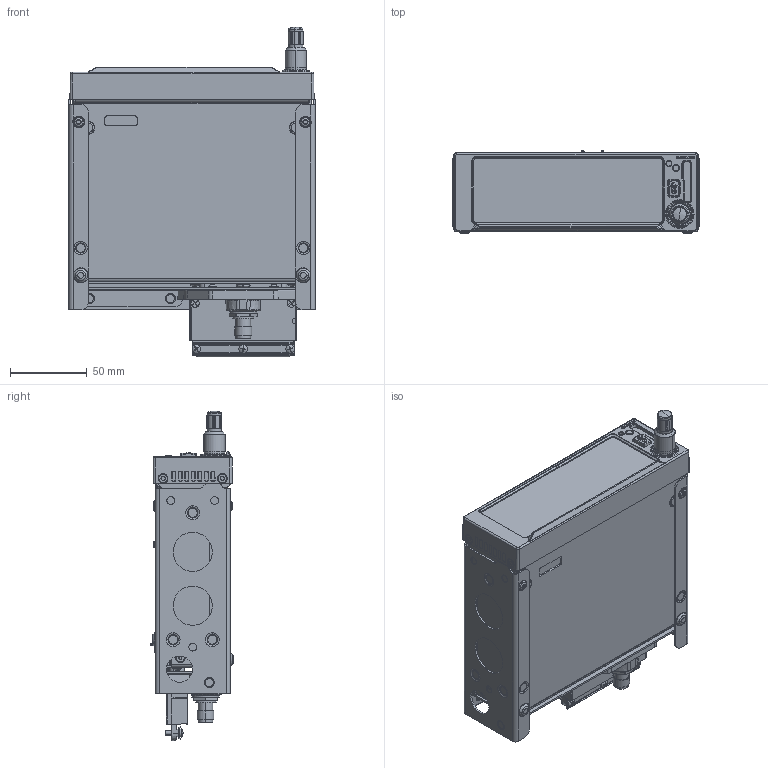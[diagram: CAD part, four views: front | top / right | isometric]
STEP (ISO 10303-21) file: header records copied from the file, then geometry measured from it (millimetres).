
FILE_DESCRIPTION (( 'STEP AP203' ), '1' );
FILE_NAME ('GPS175_011-04377-00_R[115-02813-01]_B[011-04780-01]_C[011-04779-00]_Rev1.STEP', '2019-06-10T21:00:08', ( '' ), ( '' ), 'SwSTEP 2.0', 'SolidWorks 2016', '' );
FILE_SCHEMA (( 'CONFIG_CONTROL_DESIGN' ));
Products named in the file (1): GPS175_011-04377-00_R[115-02813-01]_B[011-04780-01]_C[011-04779-00]_Rev1
Bounding box: 160.02 x 53.59 x 214.2 mm (x, y, z)
Volume: 1065176.1 mm3; surface area: 174890 mm2
Topology: 4 solids, 29 shells, 4261 faces, 10829 edges, 6956 vertices
Faces by surface type: plane 1782, cylinder 896, bspline 884, torus 352, cone 329, sphere 18
Entity records: 171488 total; most frequent: CARTESIAN_POINT 73846, ORIENTED_EDGE 21610, DIRECTION 18186, EDGE_CURVE 10805, VERTEX_POINT 6956, AXIS2_PLACEMENT_3D 6542, VECTOR 5102, LINE 5102
